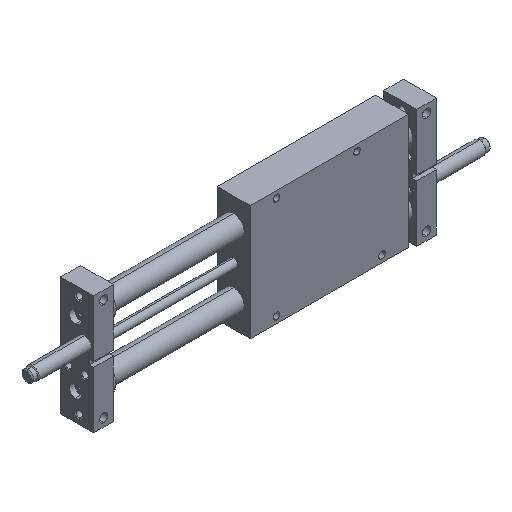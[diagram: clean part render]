
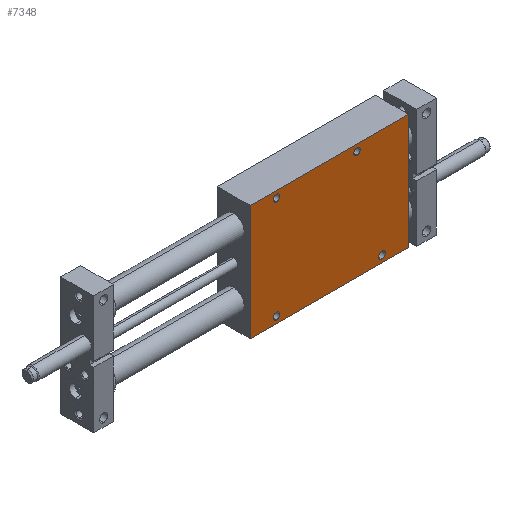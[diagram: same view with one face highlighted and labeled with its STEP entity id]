
A CAD part, isometric view. The second image highlights one B-rep face of the part: STEP entity #7348.
In plain terms, the highlighted planar face has unit normal (0, -1, 0).
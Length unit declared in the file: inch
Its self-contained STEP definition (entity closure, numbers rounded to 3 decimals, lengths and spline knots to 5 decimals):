
#28 = CARTESIAN_POINT ( 'NONE',  ( 1.05366, -0.625, 2.0625 ) ) ;
#229 = VECTOR ( 'NONE', #812, 39.37008 ) ;
#268 = CIRCLE ( 'NONE', #344, 0.125 ) ;
#344 = AXIS2_PLACEMENT_3D ( 'NONE', #1415, #6773, #2209 ) ;
#420 = EDGE_CURVE ( 'NONE', #5186, #5898, #1211, .T. ) ;
#583 = VECTOR ( 'NONE', #9596, 39.37008 ) ;
#805 = VERTEX_POINT ( 'NONE', #28 ) ;
#812 = DIRECTION ( 'NONE',  ( -1., 0., 0. ) ) ;
#827 = FACE_BOUND ( 'NONE', #5194, .T. ) ;
#1012 = LINE ( 'NONE', #2741, #8893 ) ;
#1054 = CARTESIAN_POINT ( 'NONE',  ( -3., -0.625, -2.1875 ) ) ;
#1057 = AXIS2_PLACEMENT_3D ( 'NONE', #5934, #1310, #6680 ) ;
#1166 = CARTESIAN_POINT ( 'NONE',  ( -3., -0.625, 2.1875 ) ) ;
#1211 = CIRCLE ( 'NONE', #4661, 0.125 ) ;
#1310 = DIRECTION ( 'NONE',  ( 0., 1., 0. ) ) ;
#1415 = CARTESIAN_POINT ( 'NONE',  ( -2., -0.625, 1.9375 ) ) ;
#1577 = AXIS2_PLACEMENT_3D ( 'NONE', #6713, #2132, #7457 ) ;
#1593 = CARTESIAN_POINT ( 'NONE',  ( 3., -0.625, -2.1875 ) ) ;
#1641 = EDGE_CURVE ( 'NONE', #5898, #5186, #8582, .T. ) ;
#1740 = DIRECTION ( 'NONE',  ( 0., 1., 0. ) ) ;
#1961 = VERTEX_POINT ( 'NONE', #4422 ) ;
#1994 = CARTESIAN_POINT ( 'NONE',  ( 2., -0.625, -1.8125 ) ) ;
#2039 = AXIS2_PLACEMENT_3D ( 'NONE', #5407, #5374, #5445 ) ;
#2060 = VERTEX_POINT ( 'NONE', #2993 ) ;
#2081 = CARTESIAN_POINT ( 'NONE',  ( -2., -0.625, -2.0625 ) ) ;
#2132 = DIRECTION ( 'NONE',  ( 0., 1., 0. ) ) ;
#2209 = DIRECTION ( 'NONE',  ( 0., 0., 1. ) ) ;
#2254 = CARTESIAN_POINT ( 'NONE',  ( -2., -0.625, 2.0625 ) ) ;
#2326 = LINE ( 'NONE', #1593, #229 ) ;
#2480 = ORIENTED_EDGE ( 'NONE', *, *, #420, .T. ) ;
#2568 = ORIENTED_EDGE ( 'NONE', *, *, #5595, .F. ) ;
#2700 = ORIENTED_EDGE ( 'NONE', *, *, #1641, .T. ) ;
#2741 = CARTESIAN_POINT ( 'NONE',  ( 3., -0.625, 2.1875 ) ) ;
#2791 = VERTEX_POINT ( 'NONE', #6175 ) ;
#2795 = CARTESIAN_POINT ( 'NONE',  ( -2., -0.625, -1.8125 ) ) ;
#2938 = ORIENTED_EDGE ( 'NONE', *, *, #3447, .T. ) ;
#2993 = CARTESIAN_POINT ( 'NONE',  ( 1.05366, -0.625, 1.8125 ) ) ;
#3119 = DIRECTION ( 'NONE',  ( 0., 1., 0. ) ) ;
#3297 = EDGE_CURVE ( 'NONE', #9237, #6664, #1012, .T. ) ;
#3447 = EDGE_CURVE ( 'NONE', #8705, #2791, #268, .T. ) ;
#3528 = DIRECTION ( 'NONE',  ( 0., 0., -1. ) ) ;
#3734 = DIRECTION ( 'NONE',  ( 0., 1., 0. ) ) ;
#3986 = VERTEX_POINT ( 'NONE', #1994 ) ;
#4016 = FACE_BOUND ( 'NONE', #8050, .T. ) ;
#4127 = AXIS2_PLACEMENT_3D ( 'NONE', #9168, #4670, #9953 ) ;
#4195 = ORIENTED_EDGE ( 'NONE', *, *, #6140, .T. ) ;
#4421 = PLANE ( 'NONE',  #1057 ) ;
#4422 = CARTESIAN_POINT ( 'NONE',  ( -3., -0.625, 2.1875 ) ) ;
#4500 = LINE ( 'NONE', #1166, #583 ) ;
#4656 = ORIENTED_EDGE ( 'NONE', *, *, #9180, .T. ) ;
#4661 = AXIS2_PLACEMENT_3D ( 'NONE', #8357, #8983, #9018 ) ;
#4670 = DIRECTION ( 'NONE',  ( 0., 1., 0. ) ) ;
#4711 = VERTEX_POINT ( 'NONE', #5146 ) ;
#4777 = EDGE_CURVE ( 'NONE', #3986, #4711, #9843, .T. ) ;
#5030 = AXIS2_PLACEMENT_3D ( 'NONE', #7653, #3119, #8396 ) ;
#5146 = CARTESIAN_POINT ( 'NONE',  ( 2., -0.625, -2.0625 ) ) ;
#5186 = VERTEX_POINT ( 'NONE', #2795 ) ;
#5194 = EDGE_LOOP ( 'NONE', ( #5308, #9638 ) ) ;
#5308 = ORIENTED_EDGE ( 'NONE', *, *, #6330, .T. ) ;
#5374 = DIRECTION ( 'NONE',  ( 0., 1., 0. ) ) ;
#5407 = CARTESIAN_POINT ( 'NONE',  ( -2., -0.625, -1.9375 ) ) ;
#5445 = DIRECTION ( 'NONE',  ( 0., 0., 1. ) ) ;
#5526 = LINE ( 'NONE', #6170, #9286 ) ;
#5550 = CARTESIAN_POINT ( 'NONE',  ( 3., -0.625, 2.1875 ) ) ;
#5577 = ORIENTED_EDGE ( 'NONE', *, *, #3297, .F. ) ;
#5595 = EDGE_CURVE ( 'NONE', #6664, #6421, #2326, .T. ) ;
#5620 = EDGE_LOOP ( 'NONE', ( #5997, #2568, #5577, #4656 ) ) ;
#5807 = FACE_OUTER_BOUND ( 'NONE', #5620, .T. ) ;
#5898 = VERTEX_POINT ( 'NONE', #2081 ) ;
#5934 = CARTESIAN_POINT ( 'NONE',  ( 3., -0.625, 2.1875 ) ) ;
#5997 = ORIENTED_EDGE ( 'NONE', *, *, #7918, .T. ) ;
#6140 = EDGE_CURVE ( 'NONE', #4711, #3986, #8141, .T. ) ;
#6170 = CARTESIAN_POINT ( 'NONE',  ( 3., -0.625, 2.1875 ) ) ;
#6175 = CARTESIAN_POINT ( 'NONE',  ( -2., -0.625, 1.8125 ) ) ;
#6315 = EDGE_LOOP ( 'NONE', ( #9102, #4195 ) ) ;
#6330 = EDGE_CURVE ( 'NONE', #805, #2060, #6960, .T. ) ;
#6343 = CARTESIAN_POINT ( 'NONE',  ( 1.05366, -0.625, 1.9375 ) ) ;
#6421 = VERTEX_POINT ( 'NONE', #1054 ) ;
#6664 = VERTEX_POINT ( 'NONE', #9745 ) ;
#6680 = DIRECTION ( 'NONE',  ( 0., 0., 1. ) ) ;
#6713 = CARTESIAN_POINT ( 'NONE',  ( -2., -0.625, 1.9375 ) ) ;
#6773 = DIRECTION ( 'NONE',  ( 0., 1., 0. ) ) ;
#6960 = CIRCLE ( 'NONE', #9694, 0.125 ) ;
#7085 = DIRECTION ( 'NONE',  ( 0., 0., 1. ) ) ;
#7348 = ADVANCED_FACE ( 'NONE', ( #4016, #8029, #7789, #827, #5807 ), #4421, .F. ) ;
#7357 = EDGE_CURVE ( 'NONE', #2791, #8705, #9326, .T. ) ;
#7389 = EDGE_LOOP ( 'NONE', ( #2938, #8868 ) ) ;
#7457 = DIRECTION ( 'NONE',  ( 0., 0., 1. ) ) ;
#7523 = CIRCLE ( 'NONE', #5030, 0.125 ) ;
#7653 = CARTESIAN_POINT ( 'NONE',  ( 1.05366, -0.625, 1.9375 ) ) ;
#7789 = FACE_BOUND ( 'NONE', #6315, .T. ) ;
#7805 = AXIS2_PLACEMENT_3D ( 'NONE', #8258, #3734, #9013 ) ;
#7918 = EDGE_CURVE ( 'NONE', #1961, #6421, #4500, .T. ) ;
#8029 = FACE_BOUND ( 'NONE', #7389, .T. ) ;
#8050 = EDGE_LOOP ( 'NONE', ( #2480, #2700 ) ) ;
#8141 = CIRCLE ( 'NONE', #4127, 0.125 ) ;
#8258 = CARTESIAN_POINT ( 'NONE',  ( 2., -0.625, -1.9375 ) ) ;
#8357 = CARTESIAN_POINT ( 'NONE',  ( -2., -0.625, -1.9375 ) ) ;
#8396 = DIRECTION ( 'NONE',  ( 0., 0., 1. ) ) ;
#8582 = CIRCLE ( 'NONE', #2039, 0.125 ) ;
#8705 = VERTEX_POINT ( 'NONE', #2254 ) ;
#8868 = ORIENTED_EDGE ( 'NONE', *, *, #7357, .T. ) ;
#8893 = VECTOR ( 'NONE', #3528, 39.37008 ) ;
#8983 = DIRECTION ( 'NONE',  ( 0., 1., 0. ) ) ;
#9013 = DIRECTION ( 'NONE',  ( 0., 0., 1. ) ) ;
#9018 = DIRECTION ( 'NONE',  ( 0., 0., 1. ) ) ;
#9102 = ORIENTED_EDGE ( 'NONE', *, *, #4777, .T. ) ;
#9132 = EDGE_CURVE ( 'NONE', #2060, #805, #7523, .T. ) ;
#9168 = CARTESIAN_POINT ( 'NONE',  ( 2., -0.625, -1.9375 ) ) ;
#9180 = EDGE_CURVE ( 'NONE', #9237, #1961, #5526, .T. ) ;
#9237 = VERTEX_POINT ( 'NONE', #5550 ) ;
#9286 = VECTOR ( 'NONE', #9884, 39.37008 ) ;
#9326 = CIRCLE ( 'NONE', #1577, 0.125 ) ;
#9596 = DIRECTION ( 'NONE',  ( 0., 0., -1. ) ) ;
#9638 = ORIENTED_EDGE ( 'NONE', *, *, #9132, .T. ) ;
#9694 = AXIS2_PLACEMENT_3D ( 'NONE', #6343, #1740, #7085 ) ;
#9745 = CARTESIAN_POINT ( 'NONE',  ( 3., -0.625, -2.1875 ) ) ;
#9843 = CIRCLE ( 'NONE', #7805, 0.125 ) ;
#9884 = DIRECTION ( 'NONE',  ( -1., 0., 0. ) ) ;
#9953 = DIRECTION ( 'NONE',  ( 0., 0., 1. ) ) ;
